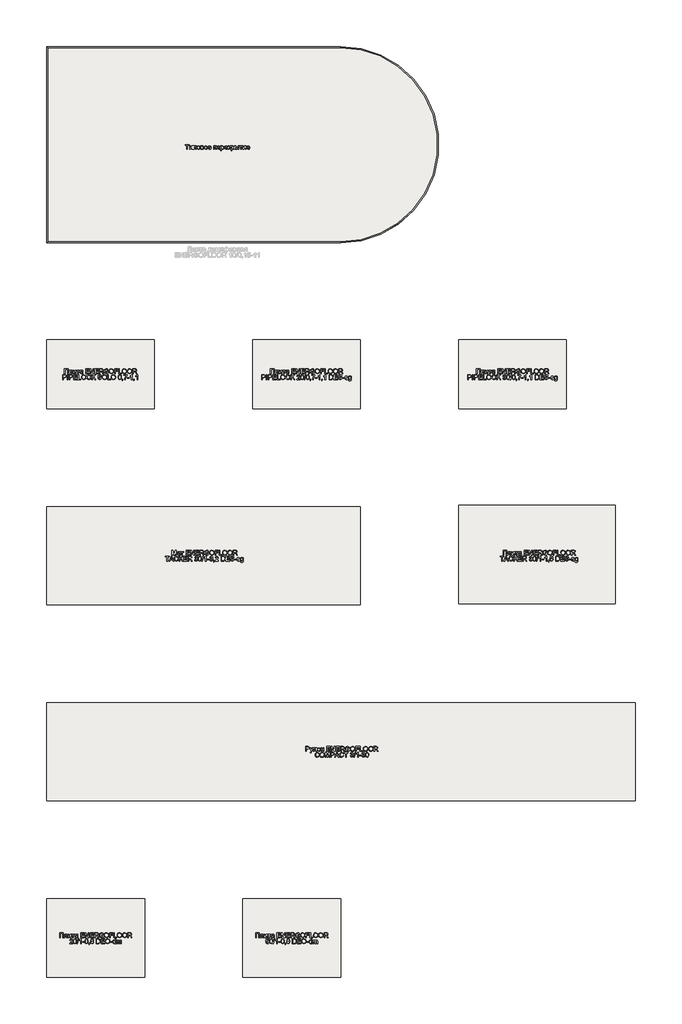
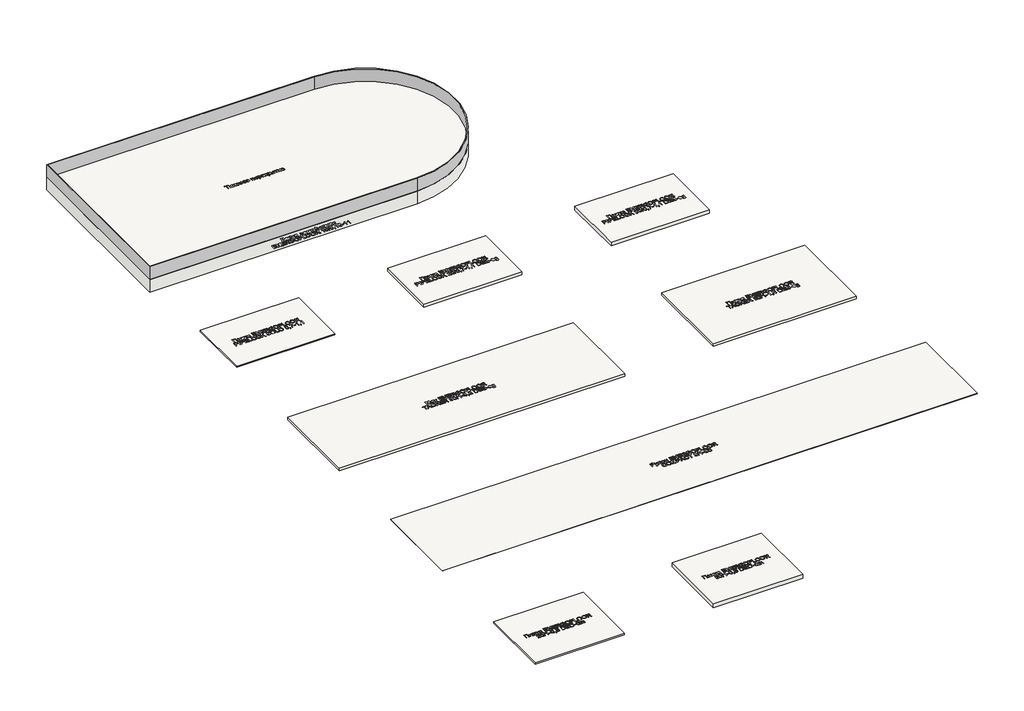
# One storey, part 1 of 7: 9 slabs, 1 proxy, 1 railing.
"""IFC4 building model written with IfcOpenShell, lengths in millimetres."""

from ifc_helpers import new_model, si_unit, point, frame, frame_2d, origin, origin_with_axes, place, context, project, spatial, polyline, circle_curve, trimmed, segment, composite_curve, outline, extrude, transform, mapped, element, save
from components import railing_875232dc

model = new_model("IFC4")

# Units and contexts
model_context = context("Model", 3, world=origin())
ifc_project = project(units=[si_unit("LENGTHUNIT", "METRE", prefix="MILLI")], contexts=[model_context])

# Site, building, storey
site = spatial("IfcSite", under=ifc_project)
building = spatial("IfcBuilding", under=site)
storey = spatial("IfcBuildingStorey", under=building, Name="Уровень 1", Elevation=0.0)

# Proxy
placement = place(None, origin())
element("IfcBuildingElementProxy", 1, Name="Текст модели ROLS ISOMARKET", ObjectType="Текст модели ROLS ISOMARKET", at=placement, inside=storey, context=model_context, shape_type="SweptSolid", body=[
    extrude(outline(polyline([(-16983.1193871, 5756.776011), (-16944.6578487, 5756.776011), (-16944.6578487, 5707.5452418), (-16950.8116948, 5707.5452418), (-16950.8116948, 5750.6221648), (-16976.965541, 5750.6221648), (-16976.965541, 5707.5452418), (-16983.1193871, 5707.5452418), (-16983.1193871, 5756.776011)])), origin_with_axes(), (0.0, 0.0, 1.0), 2.0),
    extrude(outline(polyline([(-16931.5809256, 5743.6990879), (-16903.8886179, 5743.6990879), (-16903.8886179, 5707.5812994), (-16910.0424641, 5707.5812994), (-16910.0424641, 5737.5452418), (-16925.4270794, 5737.5452418), (-16925.4270794, 5720.2976456), (-16925.8417429, 5712.3409148), (-16928.1193871, 5708.9815398), (-16933.5040025, 5707.5452418), (-16938.5040025, 5707.8577418), (-16938.5040025, 5713.6990879), (-16935.7515987, 5713.6990879), (-16932.9691468, 5714.0776937), (-16931.8573679, 5715.2796168), (-16931.5809256, 5720.6462033), (-16931.5809256, 5743.6990879)])), origin_with_axes(), (0.0, 0.0, 1.0), 2.0),
    extrude(outline(polyline([(-16894.6578487, 5743.6990879), (-16888.5040025, 5743.6990879), (-16888.5040025, 5716.1269725), (-16873.3838102, 5743.6990879), (-16865.4270794, 5743.6990879), (-16865.4270794, 5707.5452418), (-16871.5809256, 5707.5452418), (-16871.5809256, 5734.9490879), (-16886.6049641, 5707.5452418), (-16894.6578487, 5707.5452418), (-16894.6578487, 5743.6990879)])), origin_with_axes(), (0.0, 0.0, 1.0), 2.0),
    extrude(outline(polyline([(-16859.2732333, 5743.6990879), (-16830.0424641, 5743.6990879), (-16830.0424641, 5737.5452418), (-16841.5809256, 5737.5452418), (-16841.5809256, 5707.5452418), (-16847.7347718, 5707.5452418), (-16847.7347718, 5737.5452418), (-16859.2732333, 5737.5452418), (-16859.2732333, 5743.6990879)])), origin_with_axes(), (0.0, 0.0, 1.0), 2.0),
    extrude(outline(polyline([(-16801.5809256, 5712.1606264), (-16807.5484737, 5707.9899533), (-16814.1410218, 5706.776011), (-16823.0773198, 5709.6966841), (-16826.1963102, 5717.1606264), (-16825.0184256, 5722.0284148), (-16821.9234737, 5725.5620687), (-16817.6145794, 5727.5812994), (-16812.2900602, 5728.5067802), (-16801.6169833, 5730.6221648), (-16803.2756371, 5736.5356264), (-16810.0785218, 5738.3144725), (-16816.3044833, 5737.1305783), (-16819.2732333, 5732.9298571), (-16825.4270794, 5733.6990879), (-16822.7648198, 5739.7087033), (-16817.4042429, 5743.2303379), (-16809.2852525, 5744.4683187), (-16801.8273198, 5743.3745687), (-16797.6145794, 5740.6281744), (-16795.7275602, 5736.4514918), (-16795.4270794, 5731.0668764), (-16795.4270794, 5723.4106264), (-16795.1145794, 5712.7195206), (-16793.8886179, 5707.5452418), (-16800.0424641, 5707.5452418), (-16801.5809256, 5712.1606264)]), holes=[polyline([(-16801.5809256, 5724.4683187), (-16811.5088102, 5722.5812994), (-16816.8032814, 5721.5837033), (-16819.2011179, 5719.9611071), (-16820.0424641, 5717.5933187), (-16818.2095314, 5714.2639918), (-16812.8309256, 5712.9298571), (-16806.6049641, 5714.4022129), (-16802.590541, 5717.9659148), (-16801.6169833, 5722.7255302), (-16801.5809256, 5724.4683187)])]), origin_with_axes(), (0.0, 0.0, 1.0), 2.0),
    extrude(outline(polyline([(-16766.965541, 5707.5452418), (-16766.965541, 5756.776011), (-16731.5809256, 5756.776011), (-16731.5809256, 5750.6221648), (-16760.8116948, 5750.6221648), (-16760.8116948, 5736.0067802), (-16733.1193871, 5736.0067802), (-16733.1193871, 5729.8529341), (-16760.8116948, 5729.8529341), (-16760.8116948, 5713.6990879), (-16730.8116948, 5713.6990879), (-16730.8116948, 5707.5452418), (-16766.965541, 5707.5452418)])), origin_with_axes(), (0.0, 0.0, 1.0), 2.0),
    extrude(outline(polyline([(-16721.5809256, 5707.5452418), (-16721.5809256, 5756.776011), (-16714.9943871, 5756.776011), (-16689.2732333, 5717.7736071), (-16689.2732333, 5756.776011), (-16683.1193871, 5756.776011), (-16683.1193871, 5707.5452418), (-16689.7059256, 5707.5452418), (-16715.4270794, 5746.5596648), (-16715.4270794, 5707.5452418), (-16721.5809256, 5707.5452418)])), origin_with_axes(), (0.0, 0.0, 1.0), 2.0),
    extrude(outline(polyline([(-16672.3501564, 5707.5452418), (-16672.3501564, 5756.776011), (-16636.965541, 5756.776011), (-16636.965541, 5750.6221648), (-16666.1963102, 5750.6221648), (-16666.1963102, 5736.0067802), (-16638.5040025, 5736.0067802), (-16638.5040025, 5729.8529341), (-16666.1963102, 5729.8529341), (-16666.1963102, 5713.6990879), (-16636.1963102, 5713.6990879), (-16636.1963102, 5707.5452418), (-16672.3501564, 5707.5452418)])), origin_with_axes(), (0.0, 0.0, 1.0), 2.0),
    extrude(outline(polyline([(-16626.965541, 5707.5452418), (-16626.965541, 5756.776011), (-16605.7515987, 5756.776011), (-16595.9018391, 5755.447886), (-16590.5172237, 5750.7483668), (-16588.5040025, 5743.3024533), (-16591.8393391, 5734.432261), (-16602.1458294, 5729.8529341), (-16598.6482333, 5727.2207225), (-16593.6602525, 5720.8865879), (-16585.4511179, 5707.5452418), (-16592.6025602, 5707.5452418), (-16599.0088102, 5717.7495687), (-16603.6362141, 5724.5043764), (-16606.887416, 5727.6954821), (-16609.8140987, 5728.8673571), (-16613.3838102, 5729.0837033), (-16620.8116948, 5729.0837033), (-16620.8116948, 5707.5452418), (-16626.965541, 5707.5452418)]), holes=[polyline([(-16620.8116948, 5735.2375494), (-16607.0376564, 5735.2375494), (-16600.012416, 5736.1089437), (-16596.0220314, 5738.8974052), (-16594.6578487, 5743.0740879), (-16597.2600121, 5748.494761), (-16605.4871756, 5750.6221648), (-16620.8116948, 5750.6221648), (-16620.8116948, 5735.2375494)])]), origin_with_axes(), (0.0, 0.0, 1.0), 2.0),
    extrude(outline(polyline([(-16554.6578487, 5726.776011), (-16554.6578487, 5732.9298571), (-16534.6578487, 5732.9298571), (-16534.6578487, 5714.5284148), (-16544.5316468, 5708.7231264), (-16554.9703487, 5706.776011), (-16568.1133775, 5709.8709629), (-16577.0316468, 5718.8312994), (-16580.0424641, 5731.9202418), (-16577.043666, 5745.3036552), (-16568.4198679, 5754.5284148), (-16555.4631371, 5757.5452418), (-16545.8357333, 5755.7964437), (-16539.0869352, 5750.9286552), (-16535.3669833, 5742.7856264), (-16541.0400602, 5741.1870687), (-16543.8465506, 5746.8781744), (-16548.6422237, 5750.1594244), (-16555.559291, 5751.3913956), (-16563.4378968, 5750.0632706), (-16568.7984737, 5746.5776937), (-16571.965541, 5741.8361071), (-16573.8886179, 5732.1726456), (-16571.574916, 5721.4454821), (-16564.8441468, 5715.0272129), (-16555.4631371, 5712.9298571), (-16547.043666, 5714.510386), (-16540.8116948, 5717.8817802), (-16540.8116948, 5726.776011), (-16554.6578487, 5726.776011)])), origin_with_axes(), (0.0, 0.0, 1.0), 2.0),
    extrude(outline(polyline([(-16526.965541, 5731.5115879), (-16525.324916, 5742.3980062), (-16520.403041, 5750.6341841), (-16512.8880169, 5755.8174773), (-16503.4679448, 5757.5452418), (-16491.2203487, 5754.3000494), (-16482.903041, 5745.2495687), (-16480.0424641, 5732.0764918), (-16483.0532814, 5718.7231264), (-16491.5869352, 5709.8048571), (-16503.5040025, 5706.776011), (-16515.8838102, 5710.1233668), (-16524.153041, 5719.2579821), (-16526.965541, 5731.5115879)]), holes=[polyline([(-16520.8116948, 5731.4514918), (-16515.8898198, 5717.8817802), (-16503.5400602, 5712.9298571), (-16491.0821275, 5717.9298571), (-16486.1963102, 5732.1245687), (-16488.2876564, 5742.2808187), (-16494.3994352, 5749.0055783), (-16503.4318871, 5751.3913956), (-16515.6794833, 5746.7940398), (-16519.5286419, 5740.6597249), (-16520.8116948, 5731.4514918)])]), origin_with_axes(), (0.0, 0.0, 1.0), 2.0),
    extrude(outline(polyline([(-16471.5809256, 5707.5452418), (-16471.5809256, 5756.776011), (-16438.5040025, 5756.776011), (-16438.5040025, 5750.6221648), (-16465.4270794, 5750.6221648), (-16465.4270794, 5736.0067802), (-16442.3501564, 5736.0067802), (-16442.3501564, 5729.8529341), (-16465.4270794, 5729.8529341), (-16465.4270794, 5707.5452418), (-16471.5809256, 5707.5452418)])), origin_with_axes(), (0.0, 0.0, 1.0), 2.0),
    extrude(outline(polyline([(-16430.0424641, 5707.5452418), (-16430.0424641, 5756.776011), (-16423.8886179, 5756.776011), (-16423.8886179, 5713.6990879), (-16399.2732333, 5713.6990879), (-16399.2732333, 5707.5452418), (-16430.0424641, 5707.5452418)])), origin_with_axes(), (0.0, 0.0, 1.0), 2.0),
    extrude(outline(polyline([(-16394.6578487, 5731.5115879), (-16393.0172237, 5742.3980062), (-16388.0953487, 5750.6341841), (-16380.5803246, 5755.8174773), (-16371.1602525, 5757.5452418), (-16358.9126564, 5754.3000494), (-16350.5953487, 5745.2495687), (-16347.7347718, 5732.0764918), (-16350.7455891, 5718.7231264), (-16359.2792429, 5709.8048571), (-16371.1963102, 5706.776011), (-16383.5761179, 5710.1233668), (-16391.8453487, 5719.2579821), (-16394.6578487, 5731.5115879)]), holes=[polyline([(-16388.5040025, 5731.4514918), (-16383.5821275, 5717.8817802), (-16371.2323679, 5712.9298571), (-16358.7744352, 5717.9298571), (-16353.8886179, 5732.1245687), (-16355.9799641, 5742.2808187), (-16362.0917429, 5749.0055783), (-16371.1241948, 5751.3913956), (-16383.371791, 5746.7940398), (-16387.2209496, 5740.6597249), (-16388.5040025, 5731.4514918)])]), origin_with_axes(), (0.0, 0.0, 1.0), 2.0),
    extrude(outline(polyline([(-16341.5809256, 5731.5115879), (-16339.9403006, 5742.3980062), (-16335.0184256, 5750.6341841), (-16327.5034016, 5755.8174773), (-16318.0833294, 5757.5452418), (-16305.8357333, 5754.3000494), (-16297.5184256, 5745.2495687), (-16294.6578487, 5732.0764918), (-16297.668666, 5718.7231264), (-16306.2023198, 5709.8048571), (-16318.1193871, 5706.776011), (-16330.4991948, 5710.1233668), (-16338.7684256, 5719.2579821), (-16341.5809256, 5731.5115879)]), holes=[polyline([(-16335.4270794, 5731.4514918), (-16330.5052044, 5717.8817802), (-16318.1554448, 5712.9298571), (-16305.6975121, 5717.9298571), (-16300.8116948, 5732.1245687), (-16302.903041, 5742.2808187), (-16309.0148198, 5749.0055783), (-16318.0472718, 5751.3913956), (-16330.2948679, 5746.7940398), (-16334.1440266, 5740.6597249), (-16335.4270794, 5731.4514918)])]), origin_with_axes(), (0.0, 0.0, 1.0), 2.0),
    extrude(outline(polyline([(-16286.1963102, 5707.5452418), (-16286.1963102, 5756.776011), (-16264.9823679, 5756.776011), (-16255.1326083, 5755.447886), (-16249.7479929, 5750.7483668), (-16247.7347718, 5743.3024533), (-16251.0701083, 5734.432261), (-16261.3765987, 5729.8529341), (-16257.8790025, 5727.2207225), (-16252.8910218, 5720.8865879), (-16244.6818871, 5707.5452418), (-16251.8333294, 5707.5452418), (-16258.2395794, 5717.7495687), (-16262.8669833, 5724.5043764), (-16266.1181852, 5727.6954821), (-16269.0448679, 5728.8673571), (-16272.6145794, 5729.0837033), (-16280.0424641, 5729.0837033), (-16280.0424641, 5707.5452418), (-16286.1963102, 5707.5452418)]), holes=[polyline([(-16280.0424641, 5735.2375494), (-16266.2684256, 5735.2375494), (-16259.2431852, 5736.1089437), (-16255.2528006, 5738.8974052), (-16253.8886179, 5743.0740879), (-16256.4907814, 5748.494761), (-16264.7179448, 5750.6221648), (-16280.0424641, 5750.6221648), (-16280.0424641, 5735.2375494)])]), origin_with_axes(), (0.0, 0.0, 1.0), 2.0),
    extrude(outline(polyline([(-16848.1193871, 5652.9298571), (-16848.1193871, 5646.776011), (-16880.4270794, 5646.776011), (-16879.7660218, 5651.0187994), (-16876.028041, 5657.5512514), (-16868.3237141, 5664.6846648), (-16857.6987141, 5674.9370687), (-16855.0424641, 5681.9082225), (-16857.5484737, 5687.5512514), (-16864.0929448, 5689.8529341), (-16870.9138583, 5687.6053379), (-16873.5040025, 5681.3913956), (-16879.6578487, 5682.1606264), (-16874.9403006, 5692.4611071), (-16863.9607333, 5696.0067802), (-16852.9451083, 5692.0644725), (-16848.8886179, 5682.2808187), (-16849.9823679, 5676.4454821), (-16853.6181852, 5670.4118283), (-16862.434291, 5661.9803379), (-16869.5136179, 5656.0608668), (-16872.2900602, 5652.9298571), (-16848.1193871, 5652.9298571)])), origin_with_axes(), (0.0, 0.0, 1.0), 2.0),
    extrude(outline(polyline([(-16841.965541, 5670.994761), (-16840.1566468, 5685.1594244), (-16834.7840506, 5693.3264918), (-16825.8116948, 5696.0067802), (-16818.6241948, 5694.4202418), (-16813.6602525, 5689.8469244), (-16810.7756371, 5682.5632706), (-16809.6578487, 5670.994761), (-16811.4487141, 5656.8901937), (-16816.8032814, 5648.7050975), (-16825.8116948, 5646.0067802), (-16837.0616948, 5650.6942802), (-16840.7395794, 5659.0206023), (-16841.965541, 5670.994761)]), holes=[polyline([(-16835.8116948, 5671.0067802), (-16832.9270794, 5655.7243283), (-16825.8116948, 5652.1606264), (-16818.6963102, 5655.7363475), (-16815.8116948, 5671.0067802), (-16818.6001564, 5686.1149533), (-16825.8838102, 5689.8529341), (-16832.8309256, 5686.5596648), (-16835.8116948, 5671.0067802)])]), origin_with_axes(), (0.0, 0.0, 1.0), 2.0),
    extrude(outline(polyline([(-16807.3501564, 5646.776011), (-16793.5040025, 5696.0067802), (-16787.9511179, 5696.0067802), (-16801.7972718, 5646.776011), (-16807.3501564, 5646.776011)])), origin_with_axes(), (0.0, 0.0, 1.0), 2.0),
    extrude(outline(polyline([(-16761.965541, 5646.776011), (-16768.1193871, 5646.776011), (-16768.1193871, 5685.1413956), (-16773.9487141, 5680.9887514), (-16780.4270794, 5677.8817802), (-16780.4270794, 5683.6990879), (-16771.4066468, 5689.4562994), (-16765.9318871, 5696.0067802), (-16761.965541, 5696.0067802), (-16761.965541, 5646.776011)])), origin_with_axes(), (0.0, 0.0, 1.0), 2.0),
    extrude(outline(polyline([(-16748.8886179, 5661.3913956), (-16748.8886179, 5667.5452418), (-16729.6578487, 5667.5452418), (-16729.6578487, 5661.3913956), (-16748.8886179, 5661.3913956)])), origin_with_axes(), (0.0, 0.0, 1.0), 2.0),
    extrude(outline(polyline([(-16724.2732333, 5670.994761), (-16722.4643391, 5685.1594244), (-16717.0917429, 5693.3264918), (-16708.1193871, 5696.0067802), (-16700.9318871, 5694.4202418), (-16695.9679448, 5689.8469244), (-16693.0833294, 5682.5632706), (-16691.965541, 5670.994761), (-16693.7564064, 5656.8901937), (-16699.1109737, 5648.7050975), (-16708.1193871, 5646.0067802), (-16719.3693871, 5650.6942802), (-16723.0472718, 5659.0206023), (-16724.2732333, 5670.994761)]), holes=[polyline([(-16718.1193871, 5671.0067802), (-16715.2347718, 5655.7243283), (-16708.1193871, 5652.1606264), (-16701.0040025, 5655.7363475), (-16698.1193871, 5671.0067802), (-16700.9078487, 5686.1149533), (-16708.1915025, 5689.8529341), (-16715.1386179, 5686.5596648), (-16718.1193871, 5671.0067802)])]), origin_with_axes(), (0.0, 0.0, 1.0), 2.0),
    extrude(outline(polyline([(-16683.5040025, 5646.776011), (-16683.5040025, 5652.9298571), (-16677.3501564, 5652.9298571), (-16677.3501564, 5646.776011), (-16678.4559256, 5640.4839437), (-16681.965541, 5636.776011), (-16683.5040025, 5639.0837033), (-16681.2443871, 5641.7399533), (-16680.4390987, 5646.776011), (-16683.5040025, 5646.776011)])), origin_with_axes(), (0.0, 0.0, 1.0), 2.0),
    extrude(outline(polyline([(-16658.3838102, 5673.8913956), (-16663.9907814, 5677.713511), (-16665.8116948, 5683.6630302), (-16661.8453487, 5692.4490879), (-16651.2804448, 5696.0067802), (-16640.6193871, 5692.3649533), (-16636.5809256, 5683.494761), (-16638.3778006, 5677.6954821), (-16643.8285218, 5673.8913956), (-16637.2840506, 5669.0656744), (-16635.0424641, 5661.1029341), (-16639.4895794, 5650.3577418), (-16651.1963102, 5646.0067802), (-16662.903041, 5650.3757706), (-16667.3501564, 5661.2712033), (-16665.0184256, 5669.4202418), (-16658.3838102, 5673.8913956)]), holes=[polyline([(-16661.1963102, 5661.4875494), (-16660.168666, 5656.854136), (-16656.5328487, 5653.3865879), (-16651.1482333, 5652.1606264), (-16643.8165025, 5654.7387514), (-16641.1963102, 5661.2952418), (-16643.9006371, 5667.9779341), (-16651.3525602, 5670.6221648), (-16658.5941468, 5668.0139918), (-16661.1963102, 5661.4875494)]), polyline([(-16659.6578487, 5683.4827418), (-16657.4763583, 5678.651011), (-16651.1241948, 5676.776011), (-16644.8982333, 5678.6389918), (-16642.7347718, 5683.2062994), (-16644.9703487, 5687.9358668), (-16651.1963102, 5689.8529341), (-16657.4403006, 5687.9779341), (-16659.6578487, 5683.4827418)])]), origin_with_axes(), (0.0, 0.0, 1.0), 2.0),
    extrude(outline(polyline([(-16608.1193871, 5646.776011), (-16608.1193871, 5696.0067802), (-16591.1362141, 5696.0067802), (-16582.3501564, 5695.2976456), (-16575.1145794, 5691.776011), (-16569.2852525, 5683.3625494), (-16567.3501564, 5671.6558187), (-16568.6602525, 5661.7219244), (-16572.0256371, 5654.5524533), (-16576.5208294, 5650.0873091), (-16582.4042429, 5647.6173571), (-16590.3189064, 5646.776011), (-16608.1193871, 5646.776011)]), holes=[polyline([(-16601.965541, 5652.9298571), (-16591.0761179, 5652.9298571), (-16583.1554448, 5653.8192802), (-16578.5881371, 5656.3312994), (-16574.8441468, 5662.4430783), (-16573.5040025, 5671.7519725), (-16576.1302044, 5683.4106264), (-16582.5184256, 5688.8673571), (-16591.2443871, 5689.8529341), (-16601.965541, 5689.8529341), (-16601.965541, 5652.9298571)])]), origin_with_axes(), (0.0, 0.0, 1.0), 2.0),
    extrude(outline(polyline([(-16558.8886179, 5646.776011), (-16558.8886179, 5696.0067802), (-16523.5040025, 5696.0067802), (-16523.5040025, 5689.8529341), (-16552.7347718, 5689.8529341), (-16552.7347718, 5675.2375494), (-16525.0424641, 5675.2375494), (-16525.0424641, 5669.0837033), (-16552.7347718, 5669.0837033), (-16552.7347718, 5652.9298571), (-16522.7347718, 5652.9298571), (-16522.7347718, 5646.776011), (-16558.8886179, 5646.776011)])), origin_with_axes(), (0.0, 0.0, 1.0), 2.0),
    extrude(outline(polyline([(-16515.8116948, 5670.7423571), (-16514.1710698, 5681.6287754), (-16509.2491948, 5689.8649533), (-16501.7341708, 5695.0482466), (-16492.3140987, 5696.776011), (-16480.0665025, 5693.5308187), (-16471.7491948, 5684.4803379), (-16468.8886179, 5671.307261), (-16471.8994352, 5657.9538956), (-16480.4330891, 5649.0356264), (-16492.3501564, 5646.0067802), (-16504.7299641, 5649.354136), (-16512.9991948, 5658.4887514), (-16515.8116948, 5670.7423571)]), holes=[polyline([(-16509.6578487, 5670.682261), (-16504.7359737, 5657.1125494), (-16492.3862141, 5652.1606264), (-16479.9282814, 5657.1606264), (-16475.0424641, 5671.3553379), (-16477.1338102, 5681.5115879), (-16483.2455891, 5688.2363475), (-16492.278041, 5690.6221648), (-16504.5256371, 5686.0248091), (-16508.3747958, 5679.8904942), (-16509.6578487, 5670.682261)])]), origin_with_axes(), (0.0, 0.0, 1.0), 2.0),
    extrude(outline(polyline([(-16464.2732333, 5661.3913956), (-16464.2732333, 5667.5452418), (-16445.0424641, 5667.5452418), (-16445.0424641, 5661.3913956), (-16464.2732333, 5661.3913956)])), origin_with_axes(), (0.0, 0.0, 1.0), 2.0),
    extrude(outline(polyline([(-16415.8116948, 5646.776011), (-16415.8116948, 5652.5812994), (-16419.8832093, 5647.65041), (-16425.5112141, 5646.0067802), (-16433.1314064, 5648.3865879), (-16438.5160218, 5655.0272129), (-16440.4270794, 5664.8168764), (-16438.6662621, 5674.6125494), (-16433.3898198, 5681.3553379), (-16425.5352525, 5683.6990879), (-16419.8621756, 5682.0224052), (-16415.8116948, 5677.6654341), (-16415.8116948, 5696.0067802), (-16409.6578487, 5696.0067802), (-16409.6578487, 5646.776011), (-16415.8116948, 5646.776011)]), holes=[polyline([(-16434.2732333, 5664.8409148), (-16431.496791, 5655.3156744), (-16424.9463102, 5652.1606264), (-16418.4739544, 5655.1714437), (-16415.8116948, 5664.3721648), (-16418.5220314, 5674.3601456), (-16425.1987141, 5677.5452418), (-16431.6770794, 5674.4863475), (-16434.2732333, 5664.8409148)])]), origin_with_axes(), (0.0, 0.0, 1.0), 2.0),
    extrude(outline(polyline([(-16400.4270794, 5646.776011), (-16400.4270794, 5682.9298571), (-16394.2732333, 5682.9298571), (-16394.2732333, 5676.9803379), (-16390.0424641, 5681.854136), (-16384.0208294, 5683.6990879), (-16377.8549641, 5681.8180783), (-16374.465541, 5676.5476456), (-16369.6638583, 5681.9112273), (-16363.6001564, 5683.6990879), (-16355.5532814, 5680.7243283), (-16352.7347718, 5671.5596648), (-16352.7347718, 5646.776011), (-16358.8886179, 5646.776011), (-16358.8886179, 5668.9154341), (-16359.4595314, 5674.0536552), (-16361.5268391, 5676.5837033), (-16365.0424641, 5677.5452418), (-16371.0941468, 5675.0812994), (-16373.5040025, 5667.1846648), (-16373.5040025, 5646.776011), (-16379.6578487, 5646.776011), (-16379.6578487, 5669.6005302), (-16381.0821275, 5675.5620687), (-16385.7515987, 5677.5452418), (-16390.3068871, 5676.2231264), (-16393.3357333, 5672.3529341), (-16394.2732333, 5665.0091841), (-16394.2732333, 5646.776011), (-16400.4270794, 5646.776011)])), origin_with_axes(), (0.0, 0.0, 1.0), 2.0),
])

# Railing
railing_shape = railing_875232dc(model_context)
element("IfcRailing", 2, ObjectType="ROLS_ISOMARKET_Лента демпферная Energofloor 10/0,15-11", at=placement, inside=storey, context=model_context, shape_type="MappedRepresentation", body=[
    mapped(railing_shape, transform((0.0, 0.0, 0.0), x_axis=(1.0, 0.0, 0.0), y_axis=(0.0, 1.0, 0.0), z_axis=(0.0, 0.0, 1.0))),
])

# Slabs
element("IfcSlab", 3, ObjectType="ROLS_ISOMARKET_Плита ENERGOFLOOR PIPELOCK SOLO 0,7-1,1", at=placement, inside=storey, context=model_context, shape_type="SweptSolid", body=[
    extrude(outline(polyline([(-16015.4270794, 11802.1606264), (-16015.4270794, 11102.1606264), (-17115.4270794, 11102.1606264), (-17115.4270794, 11802.1606264), (-16015.4270794, 11802.1606264)])), frame((0.0, 0.0, -17.0), z_axis=(0.0, 0.0, 1.0), x_axis=(1.0, 0.0, 0.0)), (0.0, 0.0, 1.0), 17.0),
])
element("IfcSlab", 4, ObjectType="ROLS_ISOMARKET_Плита ENERGOFLOOR PIPELOCK 20/0,7-1,1 DES-sg", at=placement, inside=storey, context=model_context, shape_type="SweptSolid", body=[
    extrude(outline(polyline([(-13915.4270794, 11802.1606264), (-13915.4270794, 11102.1606264), (-15015.4270794, 11102.1606264), (-15015.4270794, 11802.1606264), (-13915.4270794, 11802.1606264)])), frame((0.0, 0.0, -37.0), z_axis=(0.0, 0.0, 1.0), x_axis=(1.0, 0.0, 0.0)), (0.0, 0.0, 1.0), 37.0),
])
element("IfcSlab", 5, ObjectType="ROLS_ISOMARKET_Плита ENERGOFLOOR PIPELOCK 30/0,7-1,1 DES-sg", at=placement, inside=storey, context=model_context, shape_type="SweptSolid", body=[
    extrude(outline(polyline([(-11815.4270794, 11802.1606264), (-11815.4270794, 11102.1606264), (-12915.4270794, 11102.1606264), (-12915.4270794, 11802.1606264), (-11815.4270794, 11802.1606264)])), frame((0.0, 0.0, -47.0), z_axis=(0.0, 0.0, 1.0), x_axis=(1.0, 0.0, 0.0)), (0.0, 0.0, 1.0), 47.0),
])
element("IfcSlab", 6, ObjectType="ROLS_ISOMARKET_Мат ENERGOFLOOR TACKER 30/1-3,2 DES-sg", at=placement, inside=storey, context=model_context, shape_type="SweptSolid", body=[
    extrude(outline(polyline([(-13915.4270794, 10102.1606264), (-13915.4270794, 9102.1606264), (-17115.4270794, 9102.1606264), (-17115.4270794, 10102.1606264), (-13915.4270794, 10102.1606264)])), frame((0.0, 0.0, -30.0), z_axis=(0.0, 0.0, 1.0), x_axis=(1.0, 0.0, 0.0)), (0.0, 0.0, 1.0), 30.0),
])
element("IfcSlab", 7, ObjectType="ROLS_ISOMARKET_Плита ENERGOFLOOR TACKER 30/1-1,6 DES-sg", at=placement, inside=storey, context=model_context, shape_type="SweptSolid", body=[
    extrude(outline(polyline([(-11315.4270794, 10113.9411901), (-11315.4270794, 9113.9411901), (-12915.4270794, 9113.9411901), (-12915.4270794, 10113.9411901), (-11315.4270794, 10113.9411901)])), frame((0.0, 0.0, -30.0), z_axis=(0.0, 0.0, 1.0), x_axis=(1.0, 0.0, 0.0)), (0.0, 0.0, 1.0), 30.0),
])
element("IfcSlab", 8, ObjectType="ROLS_ISOMARKET_Рулон ENERGOFLOOR COMPACT 3/1-30", at=placement, inside=storey, context=model_context, shape_type="SweptSolid", body=[
    extrude(outline(polyline([(-11115.4270794, 8102.1606264), (-11115.4270794, 7102.1606264), (-17115.4270794, 7102.1606264), (-17115.4270794, 8102.1606264), (-11115.4270794, 8102.1606264)])), frame((0.0, 0.0, -3.0), z_axis=(0.0, 0.0, 1.0), x_axis=(1.0, 0.0, 0.0)), (0.0, 0.0, 1.0), 3.0),
])
element("IfcSlab", 9, ObjectType="ROLS_ISOMARKET_Плита ENERGOFLOOR 20/1-0,8 DEO-dm", at=placement, inside=storey, context=model_context, shape_type="SweptSolid", body=[
    extrude(outline(polyline([(-16115.4270794, 6102.1606264), (-16115.4270794, 5302.1606264), (-17115.4270794, 5302.1606264), (-17115.4270794, 6102.1606264), (-16115.4270794, 6102.1606264)])), frame((0.0, 0.0, -20.0), z_axis=(0.0, 0.0, 1.0), x_axis=(1.0, 0.0, 0.0)), (0.0, 0.0, 1.0), 20.0),
])
element("IfcSlab", 10, ObjectType="ROLS_ISOMARKET_Плита ENERGOFLOOR 50/1-0,8 DEO-dm", at=placement, inside=storey, context=model_context, shape_type="SweptSolid", body=[
    extrude(outline(polyline([(-14115.4270794, 6102.1606264), (-14115.4270794, 5302.1606264), (-15115.4270794, 5302.1606264), (-15115.4270794, 6102.1606264), (-14115.4270794, 6102.1606264)])), frame((0.0, 0.0, -50.0), z_axis=(0.0, 0.0, 1.0), x_axis=(1.0, 0.0, 0.0)), (0.0, 0.0, 1.0), 50.0),
])
element("IfcSlab", 11, ObjectType="Типовой 150мм", at=placement, inside=storey, context=model_context, shape_type="SweptSolid", body=[
    extrude(outline(composite_curve([segment(polyline([(-14115.4270794, 12792.1606264), (-17115.4270794, 12792.1606264), (-17115.4270794, 14792.1606264), (-14115.4270794, 14792.1606264)]), True, "CONTINUOUS"), segment(trimmed(circle_curve(frame_2d((-14115.4270794, 13792.1606264)), 1000.0), [point((-14115.4270794, 14792.1606264))], [point((-14115.4270794, 12792.1606264))], False, "CARTESIAN"), True, "CONTINUOUS")], self_intersect=False)), frame((0.0, 0.0, -150.0), z_axis=(0.0, 0.0, 1.0), x_axis=(1.0, 0.0, 0.0)), (0.0, 0.0, 1.0), 150.0),
])

save(model, "model.ifc")
